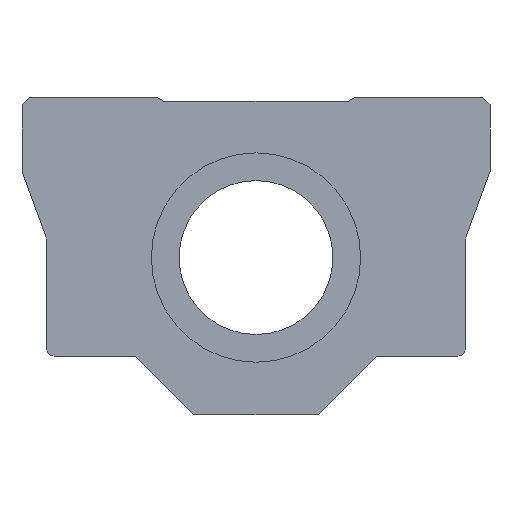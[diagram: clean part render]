
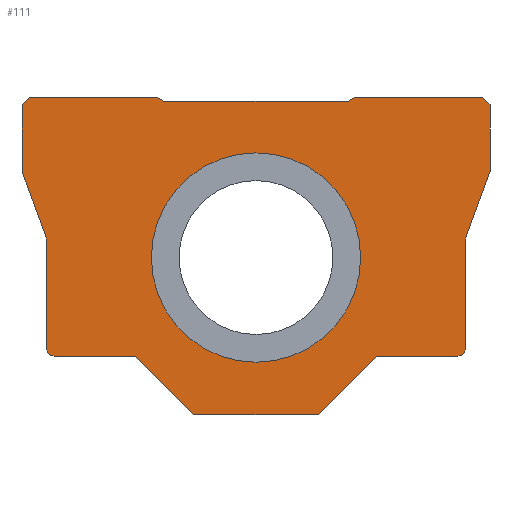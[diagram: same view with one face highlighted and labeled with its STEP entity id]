
A CAD part, left-side view. The second image highlights one B-rep face of the part: STEP entity #111.
In plain terms, the highlighted planar face has unit normal (-1, 0, 0).
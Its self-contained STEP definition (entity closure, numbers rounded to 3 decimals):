
#111 = ADVANCED_FACE( '', ( #245, #246 ), #247, .F. );
#245 = FACE_BOUND( '', #396, .T. );
#246 = FACE_OUTER_BOUND( '', #397, .T. );
#247 = PLANE( '', #398 );
#396 = EDGE_LOOP( '', ( #647 ) );
#397 = EDGE_LOOP( '', ( #648, #649, #650, #651, #652, #653, #654, #655, #656, #657, #658, #659, #660, #661, #662, #663, #664, #665, #666, #667 ) );
#398 = AXIS2_PLACEMENT_3D( '', #668, #669, #670 );
#647 = ORIENTED_EDGE( '', *, *, #867, .T. );
#648 = ORIENTED_EDGE( '', *, *, #868, .F. );
#649 = ORIENTED_EDGE( '', *, *, #829, .F. );
#650 = ORIENTED_EDGE( '', *, *, #853, .F. );
#651 = ORIENTED_EDGE( '', *, *, #861, .F. );
#652 = ORIENTED_EDGE( '', *, *, #820, .F. );
#653 = ORIENTED_EDGE( '', *, *, #869, .F. );
#654 = ORIENTED_EDGE( '', *, *, #870, .F. );
#655 = ORIENTED_EDGE( '', *, *, #871, .F. );
#656 = ORIENTED_EDGE( '', *, *, #807, .F. );
#657 = ORIENTED_EDGE( '', *, *, #872, .F. );
#658 = ORIENTED_EDGE( '', *, *, #856, .T. );
#659 = ORIENTED_EDGE( '', *, *, #837, .T. );
#660 = ORIENTED_EDGE( '', *, *, #833, .T. );
#661 = ORIENTED_EDGE( '', *, *, #873, .F. );
#662 = ORIENTED_EDGE( '', *, *, #864, .F. );
#663 = ORIENTED_EDGE( '', *, *, #797, .F. );
#664 = ORIENTED_EDGE( '', *, *, #812, .F. );
#665 = ORIENTED_EDGE( '', *, *, #874, .F. );
#666 = ORIENTED_EDGE( '', *, *, #815, .F. );
#667 = ORIENTED_EDGE( '', *, *, #778, .F. );
#668 = CARTESIAN_POINT( '', ( 0., 0., 0. ) );
#669 = DIRECTION( '', ( 1., 0., 0. ) );
#670 = DIRECTION( '', ( 0., 1., 0. ) );
#778 = EDGE_CURVE( '', #902, #904, #905, .T. );
#797 = EDGE_CURVE( '', #934, #936, #937, .T. );
#807 = EDGE_CURVE( '', #951, #953, #954, .T. );
#812 = EDGE_CURVE( '', #959, #934, #961, .T. );
#815 = EDGE_CURVE( '', #904, #965, #966, .T. );
#820 = EDGE_CURVE( '', #972, #974, #975, .T. );
#829 = EDGE_CURVE( '', #988, #983, #990, .T. );
#833 = EDGE_CURVE( '', #997, #995, #998, .T. );
#837 = EDGE_CURVE( '', #1003, #997, #1004, .T. );
#853 = EDGE_CURVE( '', #1026, #988, #1027, .T. );
#856 = EDGE_CURVE( '', #1030, #1003, #1031, .T. );
#861 = EDGE_CURVE( '', #974, #1026, #1037, .T. );
#864 = EDGE_CURVE( '', #936, #1040, #1041, .T. );
#867 = EDGE_CURVE( '', #1044, #1044, #1045, .T. );
#868 = EDGE_CURVE( '', #983, #902, #1046, .T. );
#869 = EDGE_CURVE( '', #1047, #972, #1048, .T. );
#870 = EDGE_CURVE( '', #1049, #1047, #1050, .T. );
#871 = EDGE_CURVE( '', #953, #1049, #1051, .T. );
#872 = EDGE_CURVE( '', #1030, #951, #1052, .T. );
#873 = EDGE_CURVE( '', #1040, #995, #1053, .T. );
#874 = EDGE_CURVE( '', #965, #959, #1054, .T. );
#902 = VERTEX_POINT( '', #1086 );
#904 = VERTEX_POINT( '', #1089 );
#905 = LINE( '', #1090, #1091 );
#934 = VERTEX_POINT( '', #1122 );
#936 = VERTEX_POINT( '', #1125 );
#937 = LINE( '', #1126, #1127 );
#951 = VERTEX_POINT( '', #1143 );
#953 = VERTEX_POINT( '', #1146 );
#954 = LINE( '', #1147, #1148 );
#959 = VERTEX_POINT( '', #1155 );
#961 = LINE( '', #1158, #1159 );
#965 = VERTEX_POINT( '', #1163 );
#966 = CIRCLE( '', #1164, 1.2 );
#972 = VERTEX_POINT( '', #1171 );
#974 = VERTEX_POINT( '', #1174 );
#975 = CIRCLE( '', #1175, 1.2 );
#983 = VERTEX_POINT( '', #1184 );
#988 = VERTEX_POINT( '', #1191 );
#990 = LINE( '', #1194, #1195 );
#995 = VERTEX_POINT( '', #1201 );
#997 = VERTEX_POINT( '', #1204 );
#998 = LINE( '', #1205, #1206 );
#1003 = VERTEX_POINT( '', #1213 );
#1004 = LINE( '', #1214, #1215 );
#1026 = VERTEX_POINT( '', #1249 );
#1027 = LINE( '', #1250, #1251 );
#1030 = VERTEX_POINT( '', #1255 );
#1031 = LINE( '', #1256, #1257 );
#1037 = LINE( '', #1264, #1265 );
#1040 = VERTEX_POINT( '', #1268 );
#1041 = LINE( '', #1269, #1270 );
#1044 = VERTEX_POINT( '', #1274 );
#1045 = CIRCLE( '', #1275, 17. );
#1046 = LINE( '', #1276, #1277 );
#1047 = VERTEX_POINT( '', #1278 );
#1048 = LINE( '', #1279, #1280 );
#1049 = VERTEX_POINT( '', #1281 );
#1050 = LINE( '', #1282, #1283 );
#1051 = LINE( '', #1284, #1285 );
#1052 = LINE( '', #1286, #1287 );
#1053 = LINE( '', #1288, #1289 );
#1054 = LINE( '', #1290, #1291 );
#1086 = CARTESIAN_POINT( '', ( 0., 19.622, -16. ) );
#1089 = CARTESIAN_POINT( '', ( 0., 32.8, -16. ) );
#1090 = CARTESIAN_POINT( '', ( 0., 20.622, -16. ) );
#1091 = VECTOR( '', #1324, 1000. );
#1122 = CARTESIAN_POINT( '', ( 0., 38., 14. ) );
#1125 = CARTESIAN_POINT( '', ( 0., 38., 24.8 ) );
#1126 = CARTESIAN_POINT( '', ( 0., 38., 14. ) );
#1127 = VECTOR( '', #1355, 1000. );
#1143 = CARTESIAN_POINT( '', ( 0., -36.8, 26. ) );
#1146 = CARTESIAN_POINT( '', ( 0., -38., 24.8 ) );
#1147 = CARTESIAN_POINT( '', ( 0., -36.8, 26. ) );
#1148 = VECTOR( '', #1368, 1000. );
#1155 = CARTESIAN_POINT( '', ( 0., 34., 3.01 ) );
#1158 = CARTESIAN_POINT( '', ( 0., 34., 3.01 ) );
#1159 = VECTOR( '', #1372, 1000. );
#1163 = CARTESIAN_POINT( '', ( 0., 34., -14.8 ) );
#1164 = AXIS2_PLACEMENT_3D( '', #1376, #1377, #1378 );
#1171 = CARTESIAN_POINT( '', ( 0., -34., -14.8 ) );
#1174 = CARTESIAN_POINT( '', ( 0., -32.8, -16. ) );
#1175 = AXIS2_PLACEMENT_3D( '', #1384, #1385, #1386 );
#1184 = CARTESIAN_POINT( '', ( 0., 10.122, -25.5 ) );
#1191 = CARTESIAN_POINT( '', ( 0., -10.122, -25.5 ) );
#1194 = CARTESIAN_POINT( '', ( 0., -10.122, -25.5 ) );
#1195 = VECTOR( '', #1397, 1000. );
#1201 = CARTESIAN_POINT( '', ( 0., 16., 26. ) );
#1204 = CARTESIAN_POINT( '', ( 0., 15., 25.4 ) );
#1205 = CARTESIAN_POINT( '', ( 0., 4.382, 19.029 ) );
#1206 = VECTOR( '', #1400, 1000. );
#1213 = CARTESIAN_POINT( '', ( 0., -15., 25.4 ) );
#1214 = CARTESIAN_POINT( '', ( 0., 7.5, 25.4 ) );
#1215 = VECTOR( '', #1403, 1000. );
#1249 = CARTESIAN_POINT( '', ( 0., -19.622, -16. ) );
#1250 = CARTESIAN_POINT( '', ( 0., -17.811, -17.811 ) );
#1251 = VECTOR( '', #1419, 1000. );
#1255 = CARTESIAN_POINT( '', ( 0., -16., 26. ) );
#1256 = CARTESIAN_POINT( '', ( 0., -3.882, 18.729 ) );
#1257 = VECTOR( '', #1421, 1000. );
#1264 = CARTESIAN_POINT( '', ( 0., -32.8, -16. ) );
#1265 = VECTOR( '', #1426, 1000. );
#1268 = CARTESIAN_POINT( '', ( 0., 36.8, 26. ) );
#1269 = CARTESIAN_POINT( '', ( 0., 38., 24.8 ) );
#1270 = VECTOR( '', #1427, 1000. );
#1274 = CARTESIAN_POINT( '', ( 0., 17., 0. ) );
#1275 = AXIS2_PLACEMENT_3D( '', #1429, #1430, #1431 );
#1276 = CARTESIAN_POINT( '', ( 0., 17.811, -17.811 ) );
#1277 = VECTOR( '', #1432, 1000. );
#1278 = CARTESIAN_POINT( '', ( 0., -34., 3.01 ) );
#1279 = CARTESIAN_POINT( '', ( 0., -34., 3.01 ) );
#1280 = VECTOR( '', #1433, 1000. );
#1281 = CARTESIAN_POINT( '', ( 0., -38., 14. ) );
#1282 = CARTESIAN_POINT( '', ( 0., -38., 14. ) );
#1283 = VECTOR( '', #1434, 1000. );
#1284 = CARTESIAN_POINT( '', ( 0., -38., 24.8 ) );
#1285 = VECTOR( '', #1435, 1000. );
#1286 = CARTESIAN_POINT( '', ( 0., 36.8, 26. ) );
#1287 = VECTOR( '', #1436, 1000. );
#1288 = CARTESIAN_POINT( '', ( 0., 36.8, 26. ) );
#1289 = VECTOR( '', #1437, 1000. );
#1290 = CARTESIAN_POINT( '', ( 0., 34., -13.8 ) );
#1291 = VECTOR( '', #1438, 1000. );
#1324 = DIRECTION( '', ( 0., 1., 0. ) );
#1355 = DIRECTION( '', ( 0., 0., 1. ) );
#1368 = DIRECTION( '', ( 0., -0.707, -0.707 ) );
#1372 = DIRECTION( '', ( 0., 0.342, 0.94 ) );
#1376 = CARTESIAN_POINT( '', ( 0., 32.8, -14.8 ) );
#1377 = DIRECTION( '', ( 1., 0., 0. ) );
#1378 = DIRECTION( '', ( 0., 0., -1. ) );
#1384 = CARTESIAN_POINT( '', ( 0., -32.8, -14.8 ) );
#1385 = DIRECTION( '', ( 1., 0., 0. ) );
#1386 = DIRECTION( '', ( 0., -1., 0. ) );
#1397 = DIRECTION( '', ( 0., 1., 0. ) );
#1400 = DIRECTION( '', ( 0., 0.857, 0.514 ) );
#1403 = DIRECTION( '', ( 0., 1., 0. ) );
#1419 = DIRECTION( '', ( 0., 0.707, -0.707 ) );
#1421 = DIRECTION( '', ( 0., 0.857, -0.514 ) );
#1426 = DIRECTION( '', ( 0., 1., 0. ) );
#1427 = DIRECTION( '', ( 0., -0.707, 0.707 ) );
#1429 = CARTESIAN_POINT( '', ( 0., 0., 0. ) );
#1430 = DIRECTION( '', ( 1., 0., 0. ) );
#1431 = DIRECTION( '', ( 0., 1., 0. ) );
#1432 = DIRECTION( '', ( 0., 0.707, 0.707 ) );
#1433 = DIRECTION( '', ( 0., 0., -1. ) );
#1434 = DIRECTION( '', ( 0., 0.342, -0.94 ) );
#1435 = DIRECTION( '', ( 0., 0., -1. ) );
#1436 = DIRECTION( '', ( 0., -1., 0. ) );
#1437 = DIRECTION( '', ( 0., -1., 0. ) );
#1438 = DIRECTION( '', ( 0., 0., 1. ) );
